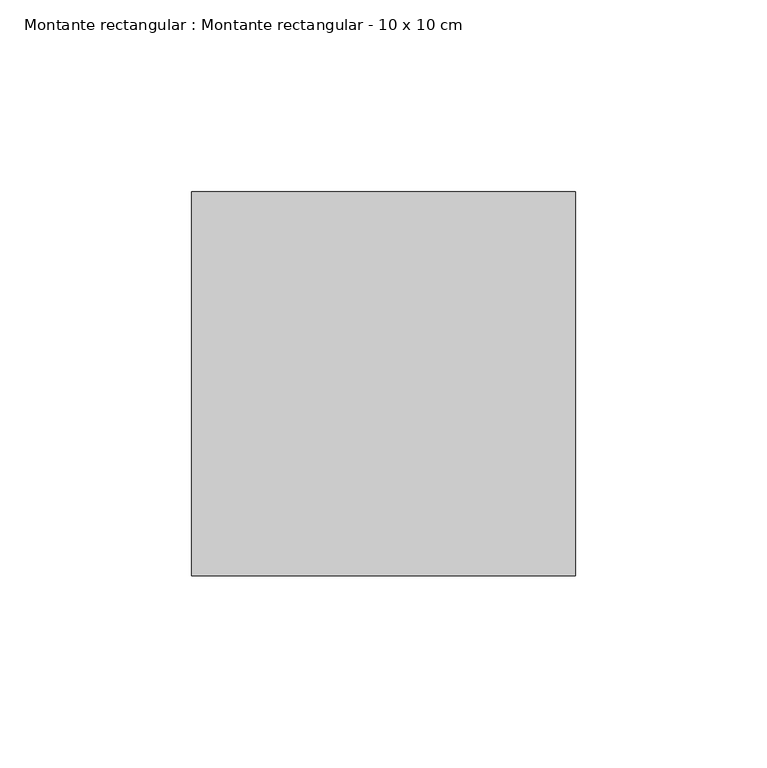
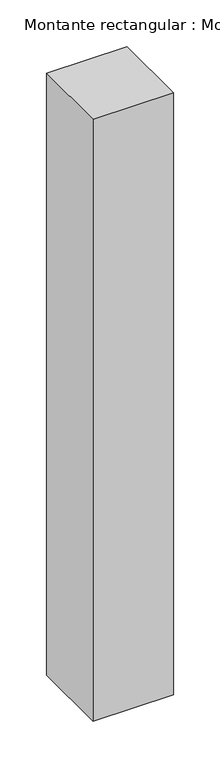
"""IFC4 building model written with IfcOpenShell, lengths in millimetres: member geometry, Montante rectangular : Montante rectangular - 10 x 10 cm."""

from ifc_helpers import new_model, si_unit, frame, origin, place, context, project, spatial, polyline, outline, extrude, source, transform, mapped, element, save


def montante_rectangular_montante_rectangular_10_x_10_cm_90afae0c(model_context):
    return source(origin(), model_context, "Body", "SweptSolid", [
        extrude(outline(polyline([(-100.0, -50.0), (-100.0, 50.0), (0.0, 50.0), (0.0, -50.0), (-100.0, -50.0)])), frame((0.0, 0.0, -790.0), z_axis=(0.0, 0.0, 1.0), x_axis=(1.0, 0.0, 0.0)), (0.0, 0.0, 1.0), 790.0),
    ])


if __name__ == "__main__":
    model = new_model("IFC4")
    model_context = context("Model", 3, world=origin())
    ifc_project = project(units=[si_unit("LENGTHUNIT", "METRE", prefix="MILLI")], contexts=[model_context])
    site = spatial("IfcSite", under=ifc_project)
    building = spatial("IfcBuilding", under=site)
    placement = place(None, origin())
    montante_rectangular_montante_rectangular_10_x_10_cm_shape = montante_rectangular_montante_rectangular_10_x_10_cm_90afae0c(model_context)
    element("IfcMember", 1, ObjectType="Montante rectangular : Montante rectangular - 10 x 10 cm", at=placement, inside=building, context=model_context, shape_type="MappedRepresentation", body=[
        mapped(montante_rectangular_montante_rectangular_10_x_10_cm_shape, transform((0.0, 0.0, 0.0), x_axis=(1.0, 0.0, 0.0), y_axis=(0.0, 1.0, 0.0), z_axis=(0.0, 0.0, 1.0))),
    ])
    save(model, "model.ifc")
